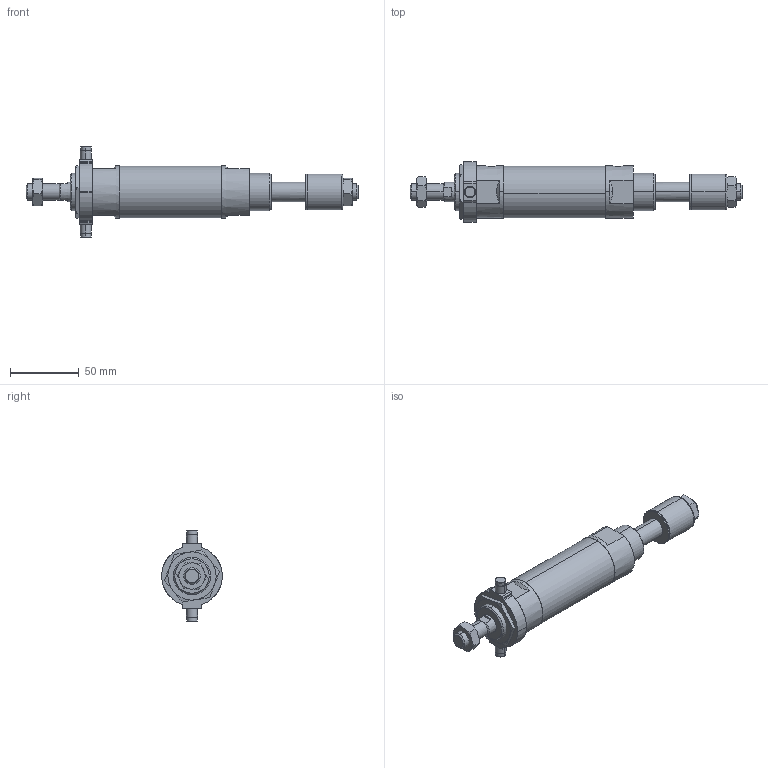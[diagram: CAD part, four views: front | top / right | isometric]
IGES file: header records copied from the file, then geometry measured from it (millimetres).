
Start section: SolidWorks IGES file using analytic representation for surfaces
Global section: file name: C:\Users\Toshiba\Desktop\JGA7-32-25-T.IGS; native system: SolidWorks 2014; preprocessor: SolidWorks 2014; author: Toshiba; date: 160420.095801; units: millimetre
Bounding box: 241 x 44 x 66 mm (x, y, z)
Surface area: 40446.5 mm2 (no closed solid volume)
Topology: 0 solids, 0 shells, 188 faces, 3052 edges, 3048 vertices
Faces by surface type: bspline 99, revolution 89
